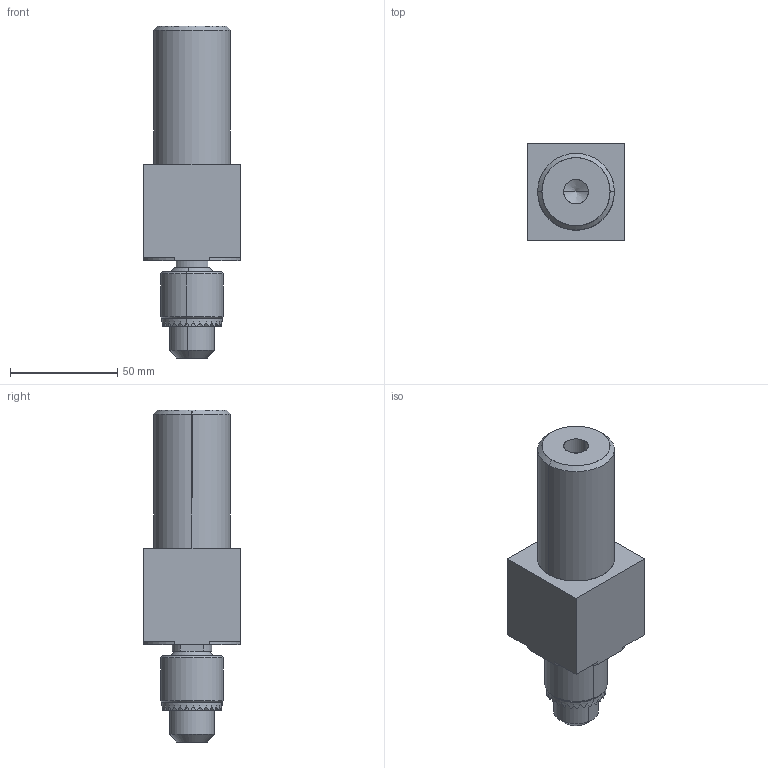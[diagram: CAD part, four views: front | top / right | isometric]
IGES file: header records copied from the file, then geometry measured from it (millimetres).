
Start section: SolidWorks IGES file using analytic representation for surfaces
Global section: file name: R:\Inventor\Kundmodeller Solidworks\BE22SK BE33SK BEP22SK\BE2222-22220SK with keychuck 0,5-6,5mm.IGS; native system: SolidWorks 2008; preprocessor: SolidWorks 2008; author: Johan; date: 091015.085059; units: millimetre
Bounding box: 45 x 45 x 154.9 mm (x, y, z)
Surface area: 25718.8 mm2 (no closed solid volume)
Topology: 0 solids, 0 shells, 192 faces, 1770 edges, 1756 vertices
Faces by surface type: bspline 134, revolution 58
